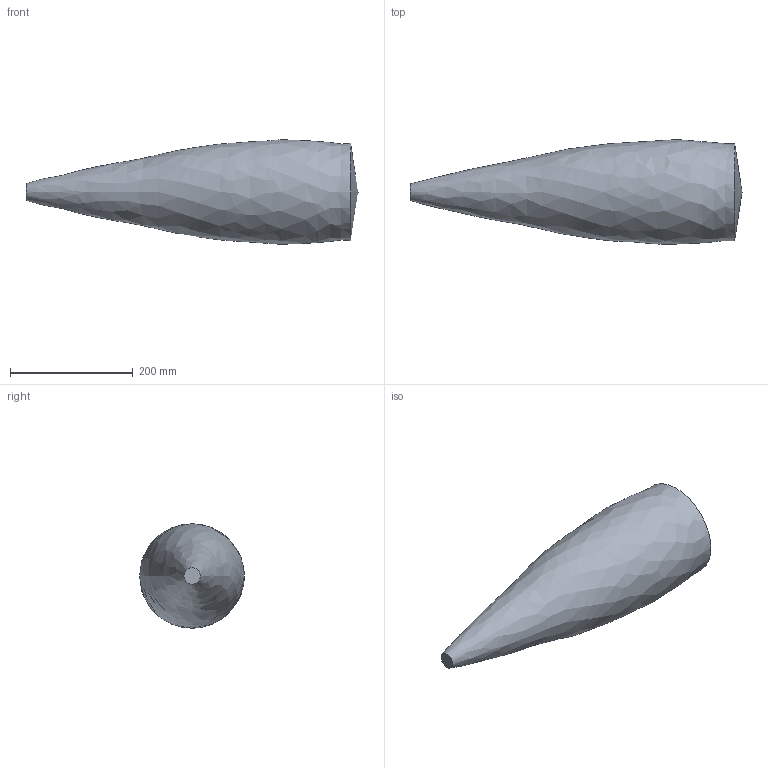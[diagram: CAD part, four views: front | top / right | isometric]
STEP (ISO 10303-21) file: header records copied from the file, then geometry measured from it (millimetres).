
FILE_DESCRIPTION((''),'2;1');
FILE_NAME('C:\Dokumente und Einstellungen\Kramp\Eigene Dateien\Microsonic Nacharbeit 2\restliche Änderungen\STP\Schallfeld Betriebstastw 350mm Platte.stp','2005-08-11T08:22:48',('Kramp'),(''),'Autodesk Inventor 7','Autodesk Inventor 7','');
FILE_SCHEMA(('AUTOMOTIVE_DESIGN { 1 0 10303 214 1 1 1 1 }'));
Length unit declared in the file: millimetre
Products named in the file (1): Schallfeld Betriebstastw 350mm Platte
Bounding box: 540 x 170.5 x 169.93 mm (x, y, z)
Volume: 7296085.8 mm3; surface area: 228968.2 mm2
Topology: 1 solids, 1 shells, 4 faces, 8 edges, 4 vertices
Faces by surface type: cone 2, bspline 1, plane 1
Entity records: 228 total; most frequent: CARTESIAN_POINT 133, DIRECTION 16, ORIENTED_EDGE 12, AXIS2_PLACEMENT_3D 7, EDGE_CURVE 6, VERTEX_POINT 4, EDGE_LOOP 4, FACE_OUTER_BOUND 4
